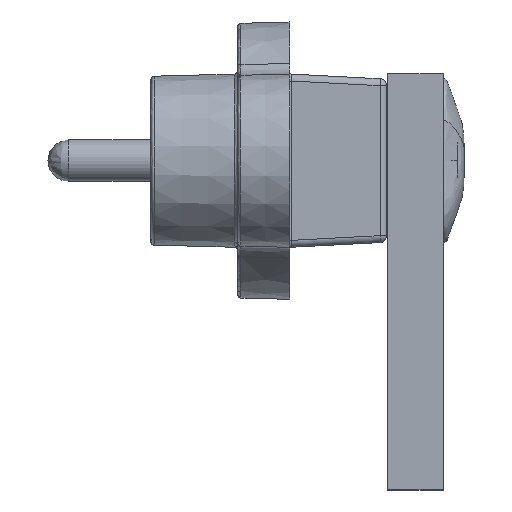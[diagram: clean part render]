
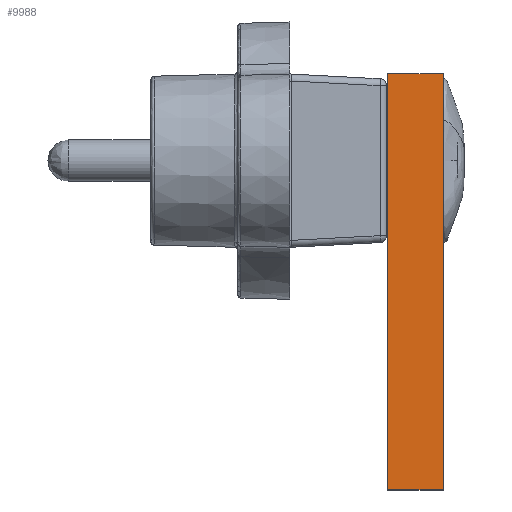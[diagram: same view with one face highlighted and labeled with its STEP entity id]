
A CAD part, left-side view. The second image highlights one B-rep face of the part: STEP entity #9988.
In plain terms, the highlighted planar face has unit normal (-1, 0, 0) as drawn and (1, 0, 0) by its records, which use the part's own axes.
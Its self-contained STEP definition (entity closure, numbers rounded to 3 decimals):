
#2078 = CARTESIAN_POINT ( 'NONE',  ( 9.5, 1.6, -6. ) ) ;
#2912 = ORIENTED_EDGE ( 'NONE', *, *, #20343, .F. ) ;
#3398 = FACE_OUTER_BOUND ( 'NONE', #14526, .T. ) ;
#3607 = DIRECTION ( 'NONE',  ( 0., 0., -1. ) ) ;
#3735 = CARTESIAN_POINT ( 'NONE',  ( 9.5, 1.6, -6. ) ) ;
#4726 = LINE ( 'NONE', #8568, #17223 ) ;
#4872 = VERTEX_POINT ( 'NONE', #12585 ) ;
#5242 = ORIENTED_EDGE ( 'NONE', *, *, #6977, .F. ) ;
#6977 = EDGE_CURVE ( 'NONE', #9663, #4872, #4726, .T. ) ;
#7487 = DIRECTION ( 'NONE',  ( -1., 0., 0. ) ) ;
#8568 = CARTESIAN_POINT ( 'NONE',  ( 9.5, 0., 0. ) ) ;
#9663 = VERTEX_POINT ( 'NONE', #10619 ) ;
#9988 = ADVANCED_FACE ( 'NONE', ( #3398 ), #21053, .F. ) ;
#10619 = CARTESIAN_POINT ( 'NONE',  ( 9.5, 0., -6. ) ) ;
#11293 = CARTESIAN_POINT ( 'NONE',  ( 9.5, 1.6, 6. ) ) ;
#11601 = LINE ( 'NONE', #2078, #21835 ) ;
#12585 = CARTESIAN_POINT ( 'NONE',  ( 9.5, 0., 6. ) ) ;
#13096 = VERTEX_POINT ( 'NONE', #19536 ) ;
#13592 = LINE ( 'NONE', #11293, #23739 ) ;
#13674 = LINE ( 'NONE', #16366, #14480 ) ;
#14480 = VECTOR ( 'NONE', #24180, 1000. ) ;
#14526 = EDGE_LOOP ( 'NONE', ( #23090, #2912, #22507, #5242 ) ) ;
#14558 = AXIS2_PLACEMENT_3D ( 'NONE', #25066, #7487, #21186 ) ;
#15744 = EDGE_CURVE ( 'NONE', #13096, #4872, #13674, .T. ) ;
#16366 = CARTESIAN_POINT ( 'NONE',  ( 9.5, 1.6, 6. ) ) ;
#16464 = VERTEX_POINT ( 'NONE', #3735 ) ;
#17223 = VECTOR ( 'NONE', #18176, 1000. ) ;
#18176 = DIRECTION ( 'NONE',  ( 0., 0., 1. ) ) ;
#19405 = DIRECTION ( 'NONE',  ( 0., 1., 0. ) ) ;
#19536 = CARTESIAN_POINT ( 'NONE',  ( 9.5, 1.6, 6. ) ) ;
#20343 = EDGE_CURVE ( 'NONE', #13096, #16464, #13592, .T. ) ;
#20785 = EDGE_CURVE ( 'NONE', #9663, #16464, #11601, .T. ) ;
#21053 = PLANE ( 'NONE',  #14558 ) ;
#21186 = DIRECTION ( 'NONE',  ( 0., 0., 1. ) ) ;
#21835 = VECTOR ( 'NONE', #19405, 1000. ) ;
#22507 = ORIENTED_EDGE ( 'NONE', *, *, #15744, .T. ) ;
#23090 = ORIENTED_EDGE ( 'NONE', *, *, #20785, .T. ) ;
#23739 = VECTOR ( 'NONE', #3607, 1000. ) ;
#24180 = DIRECTION ( 'NONE',  ( 0., -1., 0. ) ) ;
#25066 = CARTESIAN_POINT ( 'NONE',  ( 9.5, 1.6, 6. ) ) ;
